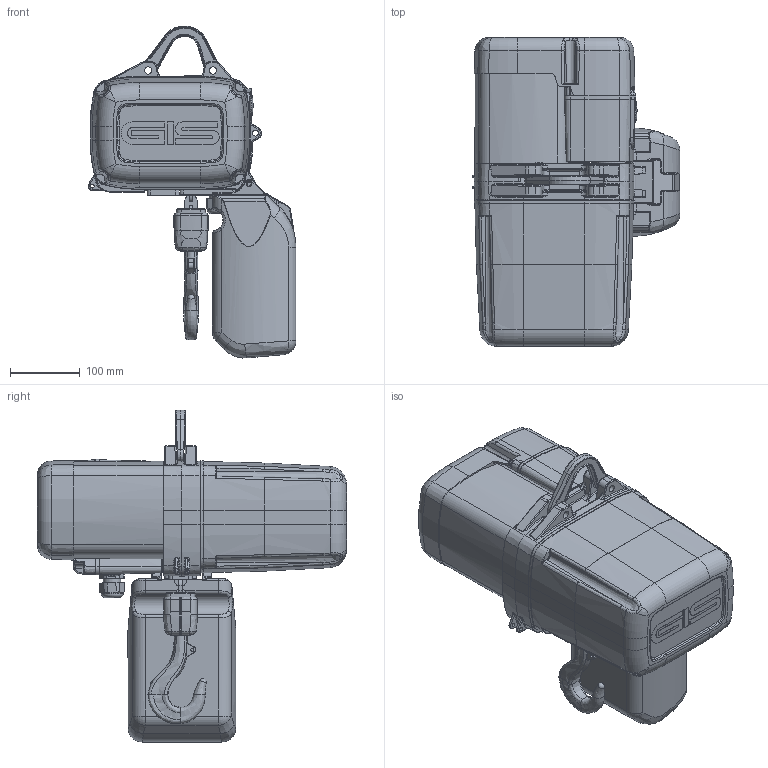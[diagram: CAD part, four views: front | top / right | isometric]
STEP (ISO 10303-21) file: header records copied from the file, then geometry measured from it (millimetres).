
FILE_DESCRIPTION(/* description */ (''),/* implementation_level */ '2;1');
FILE_NAME(/* name */ 'C:\Users\gisbsc\Desktop\Temp\GP 500 Light\GP 500 1str.stp',/* time_stamp */ '2016-09-21T09:07:41+02:00',/* author */ ('gisbsc'),/* organization */ (''),/* preprocessor_version */ 'ST-DEVELOPER v15.6',/* originating_system */ 'Autodesk Inventor 2015',/* authorisation */ '');
FILE_SCHEMA (('AUTOMOTIVE_DESIGN { 1 0 10303 214 3 1 1 }'));
Length unit declared in the file: millimetre
Products named in the file (2): GP 500 1str_2; GP 500 1str.ipt
Assembly tree (1 placements, depth 2):
  GP 500 1str.ipt
    GP 500 1str_2
Bounding box: 298.82 x 444 x 477.02 mm (x, y, z)
Volume: 18081888 mm3; surface area: 634162.9 mm2
Topology: 4 solids, 4 shells, 1948 faces, 4938 edges, 2939 vertices
Faces by surface type: bspline 637, cylinder 524, plane 346, torus 273, cone 110, sphere 58
Full cylindrical faces by diameter (mm): 4.2 x1, 4.917 x1, 5.5 x2, 8 x3, 8.5 x4, 10.5 x6, 15 x1, 25 x2, 30 x1, 50 x1
Entity records: 111487 total; most frequent: CARTESIAN_POINT 66085, ORIENTED_EDGE 9606, DIRECTION 8627, EDGE_CURVE 4803, AXIS2_PLACEMENT_3D 3629, VERTEX_POINT 2921, EDGE_LOOP 2046, FACE_OUTER_BOUND 1948
